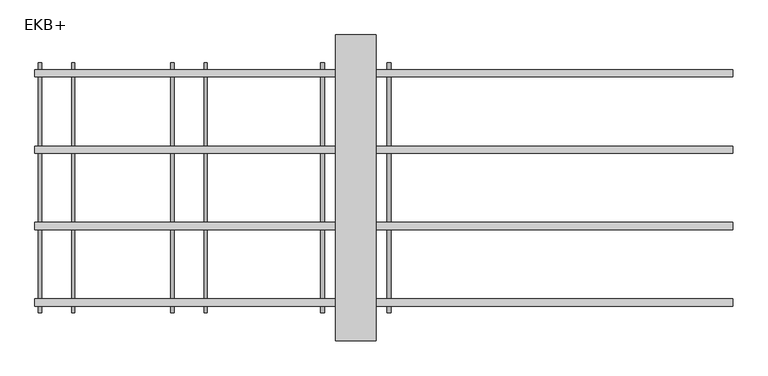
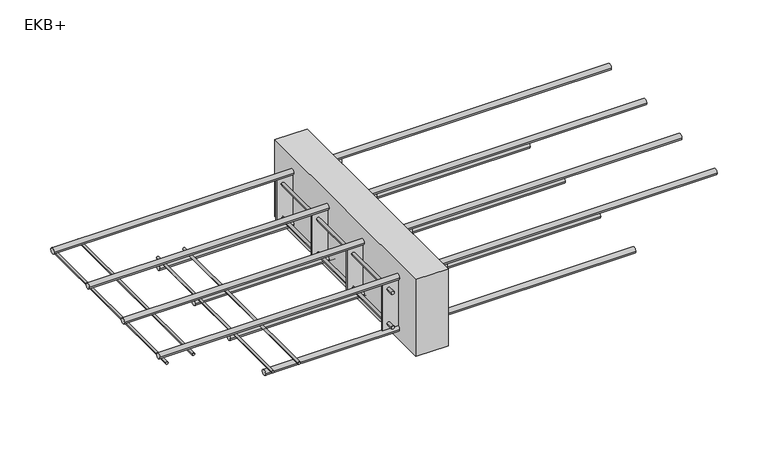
"""IFC4 building model written with IfcOpenShell, lengths in millimetres: proxy geometry, ACINOXplus_Typenreihe_EK : EKB+."""

from ifc_helpers import new_model, si_unit, point, frame, frame_2d, origin, place, context, project, spatial, polyline, circle_curve, trimmed, segment, composite_curve, outline, extrude, source, transform, mapped, element, save


def ekb_1a3afcff(model_context):
    return source(origin(), model_context, "Body", "SweptSolid", [
        extrude(outline(polyline([(40.0, 300.0), (40.0, -300.0), (-40.0, -300.0), (-40.0, 300.0), (40.0, 300.0)])), frame((0.0, 0.0, -200.0), z_axis=(0.0, 0.0, 1.0), x_axis=(1.0, 0.0, 0.0)), (0.0, 0.0, 1.0), 200.0),
        extrude(outline(polyline([(80.0, -73.5), (80.0, -76.5), (-80.0, -76.5), (-80.0, -73.5), (80.0, -73.5)])), frame((0.0, 0.0, -164.0), z_axis=(0.0, 0.0, 1.0), x_axis=(1.0, 0.0, 0.0)), (0.0, 0.0, 1.0), 120.0),
        extrude(outline(polyline([(80.0, 76.5), (80.0, 73.5), (-80.0, 73.5), (-80.0, 76.5), (80.0, 76.5)])), frame((0.0, 0.0, -164.0), z_axis=(0.0, 0.0, 1.0), x_axis=(1.0, 0.0, 0.0)), (0.0, 0.0, 1.0), 120.0),
        extrude(outline(polyline([(80.0, -223.5), (80.0, -226.5), (-80.0, -226.5), (-80.0, -223.5), (80.0, -223.5)])), frame((0.0, 0.0, -164.0), z_axis=(0.0, 0.0, 1.0), x_axis=(1.0, 0.0, 0.0)), (0.0, 0.0, 1.0), 120.0),
        extrude(outline(polyline([(80.0, 226.5), (80.0, 223.5), (-80.0, 223.5), (-80.0, 226.5), (80.0, 226.5)])), frame((0.0, 0.0, -164.0), z_axis=(0.0, 0.0, 1.0), x_axis=(1.0, 0.0, 0.0)), (0.0, 0.0, 1.0), 120.0),
        extrude(outline(composite_curve([segment(trimmed(circle_curve(frame_2d((-149.0, -65.0)), 4.0), [point((-149.0, -61.0))], [point((-149.0, -69.0))], False, "CARTESIAN"), True, "CONTINUOUS"), segment(trimmed(circle_curve(frame_2d((-149.0, -65.0)), 4.0), [point((-149.0, -69.0))], [point((-149.0, -61.0))], False, "CARTESIAN"), True, "CONTINUOUS")], self_intersect=False)), frame((0.0, -245.0, 0.0), z_axis=(0.0, 1.0, 0.0), x_axis=(0.0, 0.0, 1.0)), (0.0, 0.0, 1.0), 490.0),
        extrude(outline(composite_curve([segment(trimmed(circle_curve(frame_2d((-149.0, 65.0)), 4.0), [point((-149.0, 69.0))], [point((-149.0, 61.0))], False, "CARTESIAN"), True, "CONTINUOUS"), segment(trimmed(circle_curve(frame_2d((-149.0, 65.0)), 4.0), [point((-149.0, 61.0))], [point((-149.0, 69.0))], False, "CARTESIAN"), True, "CONTINUOUS")], self_intersect=False)), frame((0.0, -245.0, 0.0), z_axis=(0.0, 1.0, 0.0), x_axis=(0.0, 0.0, 1.0)), (0.0, 0.0, 1.0), 490.0),
        extrude(outline(composite_curve([segment(trimmed(circle_curve(frame_2d((-59.0, -65.0)), 4.0), [point((-59.0, -61.0))], [point((-59.0, -69.0))], False, "CARTESIAN"), True, "CONTINUOUS"), segment(trimmed(circle_curve(frame_2d((-59.0, -65.0)), 4.0), [point((-59.0, -69.0))], [point((-59.0, -61.0))], False, "CARTESIAN"), True, "CONTINUOUS")], self_intersect=False)), frame((0.0, -245.0, 0.0), z_axis=(0.0, 1.0, 0.0), x_axis=(0.0, 0.0, 1.0)), (0.0, 0.0, 1.0), 490.0),
        extrude(outline(composite_curve([segment(trimmed(circle_curve(frame_2d((-59.0, 65.0)), 4.0), [point((-59.0, 69.0))], [point((-59.0, 61.0))], False, "CARTESIAN"), True, "CONTINUOUS"), segment(trimmed(circle_curve(frame_2d((-59.0, 65.0)), 4.0), [point((-59.0, 61.0))], [point((-59.0, 69.0))], False, "CARTESIAN"), True, "CONTINUOUS")], self_intersect=False)), frame((0.0, -245.0, 0.0), z_axis=(0.0, 1.0, 0.0), x_axis=(0.0, 0.0, 1.0)), (0.0, 0.0, 1.0), 490.0),
        extrude(outline(composite_curve([segment(trimmed(circle_curve(frame_2d((75.0, -171.0)), 7.0), [point((68.0, -171.0))], [point((82.0, -171.0))], False, "CARTESIAN"), True, "CONTINUOUS"), segment(trimmed(circle_curve(frame_2d((75.0, -171.0)), 7.0), [point((82.0, -171.0))], [point((68.0, -171.0))], False, "CARTESIAN"), True, "CONTINUOUS")], self_intersect=False)), frame((-370.0, 0.0, 0.0), z_axis=(1.0, 0.0, 0.0), x_axis=(0.0, 1.0, 0.0)), (0.0, 0.0, 1.0), 910.0),
        extrude(outline(composite_curve([segment(trimmed(circle_curve(frame_2d((225.0, -171.0)), 7.0), [point((218.0, -171.0))], [point((232.0, -171.0))], False, "CARTESIAN"), True, "CONTINUOUS"), segment(trimmed(circle_curve(frame_2d((225.0, -171.0)), 7.0), [point((232.0, -171.0))], [point((218.0, -171.0))], False, "CARTESIAN"), True, "CONTINUOUS")], self_intersect=False)), frame((-370.0, 0.0, 0.0), z_axis=(1.0, 0.0, 0.0), x_axis=(0.0, 1.0, 0.0)), (0.0, 0.0, 1.0), 910.0),
        extrude(outline(composite_curve([segment(trimmed(circle_curve(frame_2d((-75.0, -171.0)), 7.0), [point((-82.0, -171.0))], [point((-68.0, -171.0))], False, "CARTESIAN"), True, "CONTINUOUS"), segment(trimmed(circle_curve(frame_2d((-75.0, -171.0)), 7.0), [point((-68.0, -171.0))], [point((-82.0, -171.0))], False, "CARTESIAN"), True, "CONTINUOUS")], self_intersect=False)), frame((-370.0, 0.0, 0.0), z_axis=(1.0, 0.0, 0.0), x_axis=(0.0, 1.0, 0.0)), (0.0, 0.0, 1.0), 910.0),
        extrude(outline(composite_curve([segment(trimmed(circle_curve(frame_2d((-225.0, -171.0)), 7.0), [point((-232.0, -171.0))], [point((-218.0, -171.0))], False, "CARTESIAN"), True, "CONTINUOUS"), segment(trimmed(circle_curve(frame_2d((-225.0, -171.0)), 7.0), [point((-218.0, -171.0))], [point((-232.0, -171.0))], False, "CARTESIAN"), True, "CONTINUOUS")], self_intersect=False)), frame((-370.0, 0.0, 0.0), z_axis=(1.0, 0.0, 0.0), x_axis=(0.0, 1.0, 0.0)), (0.0, 0.0, 1.0), 910.0),
        extrude(outline(composite_curve([segment(trimmed(circle_curve(frame_2d((75.0, -37.0)), 7.0), [point((68.0, -37.0))], [point((82.0, -37.0))], False, "CARTESIAN"), True, "CONTINUOUS"), segment(trimmed(circle_curve(frame_2d((75.0, -37.0)), 7.0), [point((82.0, -37.0))], [point((68.0, -37.0))], False, "CARTESIAN"), True, "CONTINUOUS")], self_intersect=False)), frame((-630.0, 0.0, 0.0), z_axis=(1.0, 0.0, 0.0), x_axis=(0.0, 1.0, 0.0)), (0.0, 0.0, 1.0), 1370.0),
        extrude(outline(composite_curve([segment(trimmed(circle_curve(frame_2d((225.0, -37.0)), 7.0), [point((218.0, -37.0))], [point((232.0, -37.0))], False, "CARTESIAN"), True, "CONTINUOUS"), segment(trimmed(circle_curve(frame_2d((225.0, -37.0)), 7.0), [point((232.0, -37.0))], [point((218.0, -37.0))], False, "CARTESIAN"), True, "CONTINUOUS")], self_intersect=False)), frame((-630.0, 0.0, 0.0), z_axis=(1.0, 0.0, 0.0), x_axis=(0.0, 1.0, 0.0)), (0.0, 0.0, 1.0), 1370.0),
        extrude(outline(composite_curve([segment(trimmed(circle_curve(frame_2d((-75.0, -37.0)), 7.0), [point((-82.0, -37.0))], [point((-68.0, -37.0))], False, "CARTESIAN"), True, "CONTINUOUS"), segment(trimmed(circle_curve(frame_2d((-75.0, -37.0)), 7.0), [point((-68.0, -37.0))], [point((-82.0, -37.0))], False, "CARTESIAN"), True, "CONTINUOUS")], self_intersect=False)), frame((-630.0, 0.0, 0.0), z_axis=(1.0, 0.0, 0.0), x_axis=(0.0, 1.0, 0.0)), (0.0, 0.0, 1.0), 1370.0),
        extrude(outline(composite_curve([segment(trimmed(circle_curve(frame_2d((-225.0, -37.0)), 7.0), [point((-232.0, -37.0))], [point((-218.0, -37.0))], False, "CARTESIAN"), True, "CONTINUOUS"), segment(trimmed(circle_curve(frame_2d((-225.0, -37.0)), 7.0), [point((-218.0, -37.0))], [point((-232.0, -37.0))], False, "CARTESIAN"), True, "CONTINUOUS")], self_intersect=False)), frame((-630.0, 0.0, 0.0), z_axis=(1.0, 0.0, 0.0), x_axis=(0.0, 1.0, 0.0)), (0.0, 0.0, 1.0), 1370.0),
        extrude(outline(composite_curve([segment(trimmed(circle_curve(frame_2d((-161.0, -360.0)), 3.0), [point((-161.0, -357.0))], [point((-161.0, -363.0))], False, "CARTESIAN"), True, "CONTINUOUS"), segment(trimmed(circle_curve(frame_2d((-161.0, -360.0)), 3.0), [point((-161.0, -363.0))], [point((-161.0, -357.0))], False, "CARTESIAN"), True, "CONTINUOUS")], self_intersect=False)), frame((0.0, -245.0, 0.0), z_axis=(0.0, 1.0, 0.0), x_axis=(0.0, 0.0, 1.0)), (0.0, 0.0, 1.0), 490.0),
        extrude(outline(composite_curve([segment(trimmed(circle_curve(frame_2d((-161.0, -295.0)), 3.0), [point((-161.0, -292.0))], [point((-161.0, -298.0))], False, "CARTESIAN"), True, "CONTINUOUS"), segment(trimmed(circle_curve(frame_2d((-161.0, -295.0)), 3.0), [point((-161.0, -298.0))], [point((-161.0, -292.0))], False, "CARTESIAN"), True, "CONTINUOUS")], self_intersect=False)), frame((0.0, -245.0, 0.0), z_axis=(0.0, 1.0, 0.0), x_axis=(0.0, 0.0, 1.0)), (0.0, 0.0, 1.0), 490.0),
        extrude(outline(composite_curve([segment(trimmed(circle_curve(frame_2d((-47.0, -620.0)), 3.0), [point((-47.0, -617.0))], [point((-47.0, -623.0))], False, "CARTESIAN"), True, "CONTINUOUS"), segment(trimmed(circle_curve(frame_2d((-47.0, -620.0)), 3.0), [point((-47.0, -623.0))], [point((-47.0, -617.0))], False, "CARTESIAN"), True, "CONTINUOUS")], self_intersect=False)), frame((0.0, -245.0, 0.0), z_axis=(0.0, 1.0, 0.0), x_axis=(0.0, 0.0, 1.0)), (0.0, 0.0, 1.0), 490.0),
        extrude(outline(composite_curve([segment(trimmed(circle_curve(frame_2d((-47.0, -555.0)), 3.0), [point((-47.0, -552.0))], [point((-47.0, -558.0))], False, "CARTESIAN"), True, "CONTINUOUS"), segment(trimmed(circle_curve(frame_2d((-47.0, -555.0)), 3.0), [point((-47.0, -558.0))], [point((-47.0, -552.0))], False, "CARTESIAN"), True, "CONTINUOUS")], self_intersect=False)), frame((0.0, -245.0, 0.0), z_axis=(0.0, 1.0, 0.0), x_axis=(0.0, 0.0, 1.0)), (0.0, 0.0, 1.0), 490.0),
    ])


if __name__ == "__main__":
    model = new_model("IFC4")
    model_context = context("Model", 3, world=origin())
    ifc_project = project(units=[si_unit("LENGTHUNIT", "METRE", prefix="MILLI")], contexts=[model_context])
    site = spatial("IfcSite", under=ifc_project)
    building = spatial("IfcBuilding", under=site)
    placement = place(None, origin())
    ekb_shape = ekb_1a3afcff(model_context)
    element("IfcBuildingElementProxy", 1, Name="ACINOXplus_Typenreihe_EK : EKB+", ObjectType="ACINOXplus_Typenreihe_EK : EKB+", at=placement, inside=building, context=model_context, shape_type="MappedRepresentation", body=[
        mapped(ekb_shape, transform((0.0, 0.0, 0.0), x_axis=(1.0, 0.0, 0.0), y_axis=(0.0, 1.0, 0.0), z_axis=(0.0, 0.0, 1.0))),
    ])
    save(model, "model.ifc")
